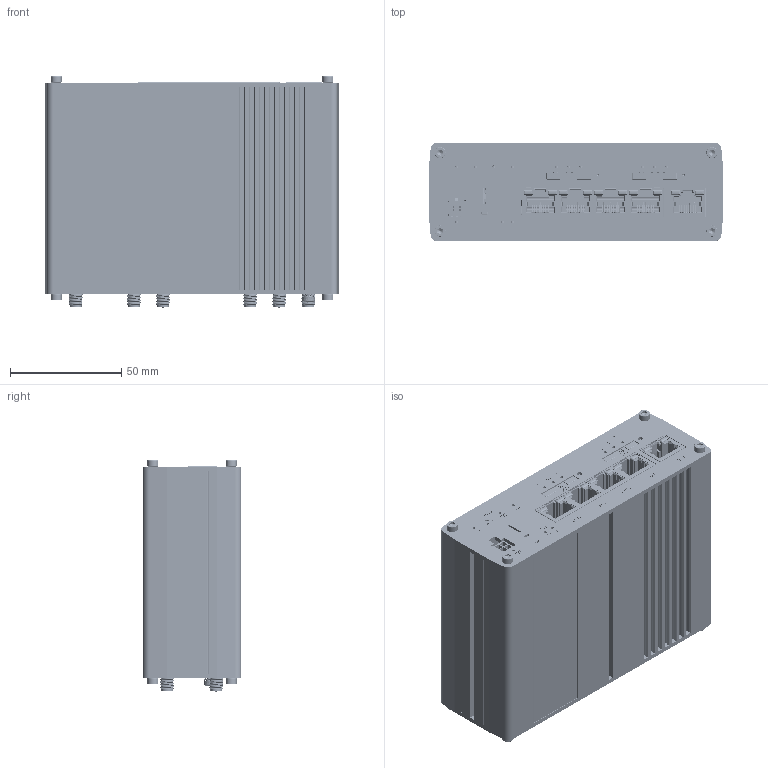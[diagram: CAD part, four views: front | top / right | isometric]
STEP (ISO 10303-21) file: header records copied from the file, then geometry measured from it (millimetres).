
FILE_DESCRIPTION (( 'STEP AP203' ), '1' );
FILE_NAME ('0422_RTM51DAM000X_02.STEP', '2024-09-18T08:12:50', ( '' ), ( '' ), 'SwSTEP 2.0', 'SolidWorks 2024', '' );
FILE_SCHEMA (( 'CONFIG_CONTROL_DESIGN' ));
Products named in the file (11): SK12 (22x22x3mm) Shore50; 0220_RUTM50PRBKT_01_RUTM50_engraving; 0092_RTX12DHB0BCX_01; 0090_RTX12DHT0BCX_01; DIN6798_M3; 0422_RTM51DAM000X_02; CH-CC-SC-1806214-1_3.03; RUTM51_RF_v4.0_20240110_1027; DIN7985_M3x10; 0093_RTX50DPF0BCX_01; RUTM50_RUTM51_Main_v4.0_20240116_0951
Assembly tree (17 placements, depth 2):
  0422_RTM51DAM000X_02
    0092_RTX12DHB0BCX_01
    0090_RTX12DHT0BCX_01
    0093_RTX50DPF0BCX_01
    0220_RUTM50PRBKT_01_RUTM50_engraving
    SK12 (22x22x3mm) Shore50
    CH-CC-SC-1806214-1_3.03  x8
    DIN6798_M3
    DIN7985_M3x10
    RUTM50_RUTM51_Main_v4.0_20240116_0951
    RUTM51_RF_v4.0_20240110_1027
Bounding box: 132 x 44.2 x 103.9 mm (x, y, z)
Volume: 129517.4 mm3; surface area: 204812.2 mm2
Topology: 15 solids, 6182 shells, 22150 faces, 87175 edges, 70264 vertices
Faces by surface type: plane 15460, cylinder 4985, bspline 1006, sphere 446, torus 156, cone 97
Entity records: 990779 total; most frequent: CARTESIAN_POINT 308366, DIRECTION 128101, ORIENTED_EDGE 117890, EDGE_CURVE 86501, VERTEX_POINT 69938, VECTOR 64759, LINE 64759, AXIS2_PLACEMENT_3D 31671
